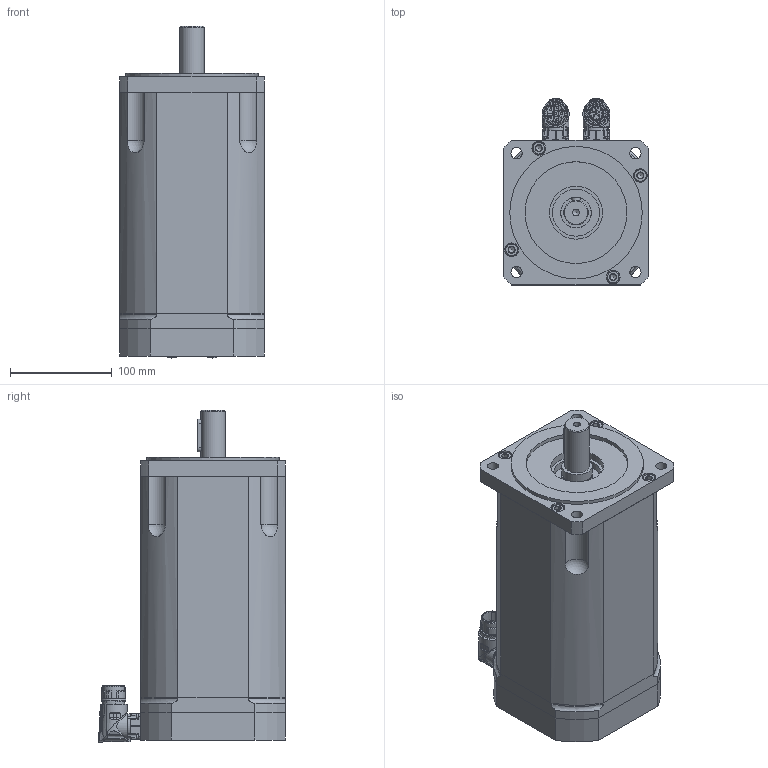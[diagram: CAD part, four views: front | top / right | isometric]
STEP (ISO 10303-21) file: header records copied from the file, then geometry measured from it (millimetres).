
FILE_DESCRIPTION(/* description */ (''),/* implementation_level */ '2;1');
FILE_NAME(/* name */ 'C:\Users\Public\Documents\Autodesk\Inventor LT 2014\Workspace\Motori Sito WEB\TG_5\STEP_DSM5_5x\DSM5_53_x097.stp',/* time_stamp */ '2021-03-31T14:17:13+02:00',/* author */ ('marcor'),/* organization */ (''),/* preprocessor_version */ 'ST-DEVELOPER v15.2',/* originating_system */ 'Autodesk Inventor LT ',/* authorisation */ '');
FILE_SCHEMA (('AUTOMOTIVE_DESIGN { 1 0 10303 214 3 1 1 }'));
Products named in the file (1): DSM5_53_x097
Bounding box: 142 x 183.5 x 325.91 mm (x, y, z)
Volume: 5049067.1 mm3; surface area: 335407.4 mm2
Topology: 16 solids, 36 shells, 1536 faces, 3972 edges, 2641 vertices
Faces by surface type: plane 535, cylinder 437, cone 344, bspline 111, torus 77, sphere 32
Full cylindrical faces by diameter (mm): 1.2 x17, 2.013 x8, 2.224 x8, 2.233 x6, 2.5 x8, 2.88 x8, 3.26 x8, 4.5 x2, 4.8 x8, 4.917 x4, 5.5 x3, 5.9 x2, 6 x4, 6.5 x4, 6.647 x9, 8 x8, 8.5 x8, 10 x4, 11 x8, 13 x8, 13.5 x8, 15.2 x1, 17.4 x3, 18 x1, 19.8 x1, 20 x2, 21.15 x4, 21.6 x1, 21.653 x2, 24 x1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
Entity records: 53778 total; most frequent: CARTESIAN_POINT 18149, ORIENTED_EDGE 7006, DIRECTION 6641, EDGE_CURVE 3503, AXIS2_PLACEMENT_3D 2704, VERTEX_POINT 2516, EDGE_LOOP 2067, ADVANCED_FACE 1536
